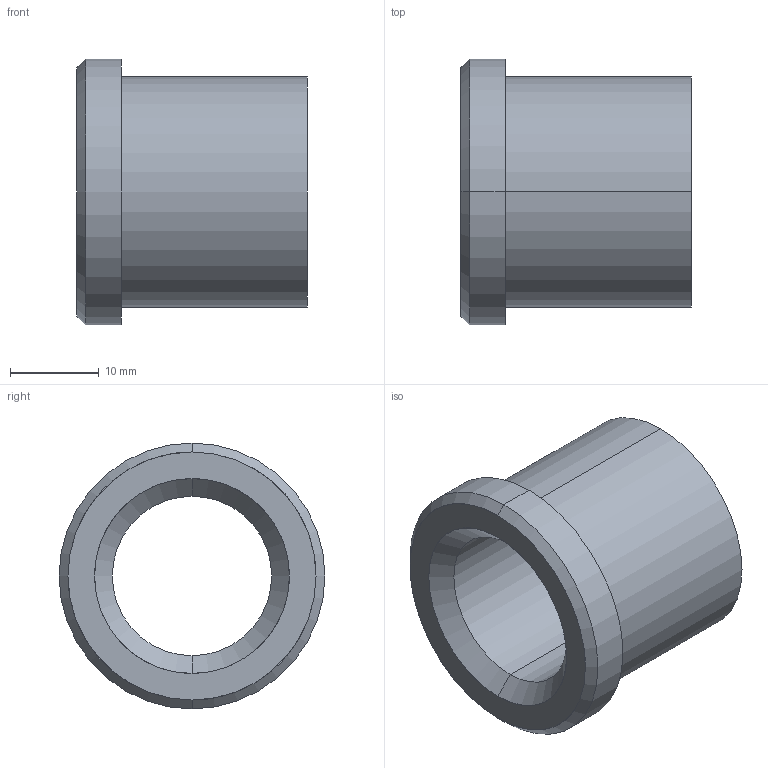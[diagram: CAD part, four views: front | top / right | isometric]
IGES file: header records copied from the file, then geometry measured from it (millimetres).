
Start section: START RECORD GO HERE.
Global section: file name: 353-18X26.igs; native system: DASSAULT SYSTEMES CATIA V5 R20 - www.3ds.com; preprocessor: CATIA Version 5 Release 20 ; author: Utente; organization: NB04-ASUS; date: 20210508.104416; units: millimetre
Bounding box: 26 x 30 x 30 mm (x, y, z)
Surface area: 4408.6 mm2 (no closed solid volume)
Topology: 0 solids, 0 shells, 15 faces, 96 edges, 96 vertices
Faces by surface type: revolution 12, plane 3
